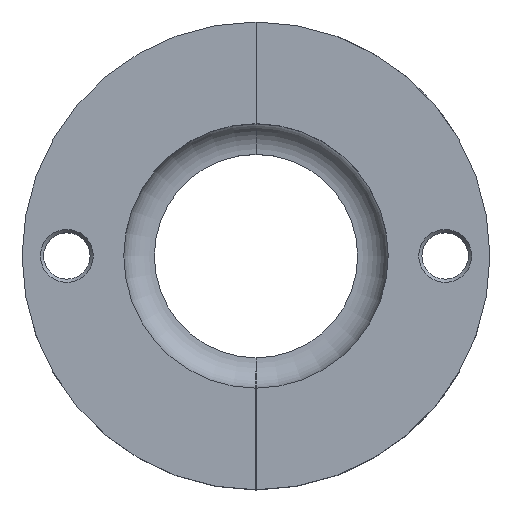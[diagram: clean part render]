
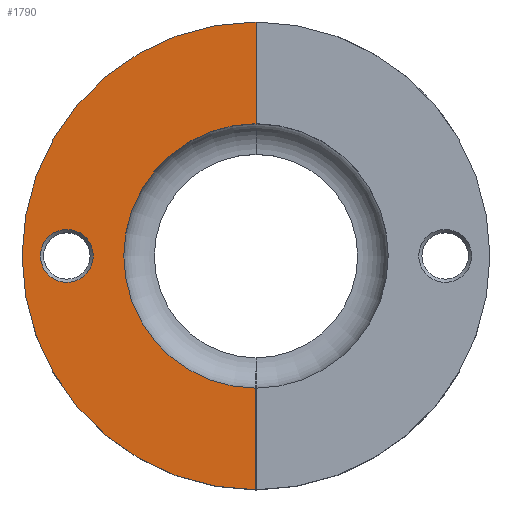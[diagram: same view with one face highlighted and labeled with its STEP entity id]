
A CAD part, top view. The second image highlights one B-rep face of the part: STEP entity #1790.
In plain terms, the highlighted planar face has unit normal (0, 0, 1).
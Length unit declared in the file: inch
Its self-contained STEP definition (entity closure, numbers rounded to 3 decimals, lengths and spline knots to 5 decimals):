
#43=FACE_BOUND('',#289,.T.);
#65=PLANE('',#1967);
#179=FACE_OUTER_BOUND('',#288,.T.);
#288=EDGE_LOOP('',(#1512,#1513,#1514,#1515));
#289=EDGE_LOOP('',(#1516));
#347=CIRCLE('',#1943,0.325);
#362=CIRCLE('',#1968,1.625);
#363=CIRCLE('',#1969,2.875);
#551=LINE('',#6838,#656);
#554=LINE('',#6854,#659);
#656=VECTOR('',#2309,0.3937);
#659=VECTOR('',#2328,0.3937);
#800=VERTEX_POINT('',#6788);
#818=VERTEX_POINT('',#6835);
#819=VERTEX_POINT('',#6837);
#823=VERTEX_POINT('',#6851);
#824=VERTEX_POINT('',#6853);
#1033=EDGE_CURVE('',#800,#800,#347,.T.);
#1056=EDGE_CURVE('',#818,#819,#551,.T.);
#1063=EDGE_CURVE('',#818,#823,#362,.T.);
#1064=EDGE_CURVE('',#824,#823,#554,.T.);
#1065=EDGE_CURVE('',#824,#819,#363,.T.);
#1512=ORIENTED_EDGE('',*,*,#1056,.F.);
#1513=ORIENTED_EDGE('',*,*,#1063,.T.);
#1514=ORIENTED_EDGE('',*,*,#1064,.F.);
#1515=ORIENTED_EDGE('',*,*,#1065,.T.);
#1516=ORIENTED_EDGE('',*,*,#1033,.T.);
#1790=ADVANCED_FACE('',(#179,#43),#65,.T.);
#1943=AXIS2_PLACEMENT_3D('',#6789,#2261,#2262);
#1967=AXIS2_PLACEMENT_3D('',#6850,#2324,#2325);
#1968=AXIS2_PLACEMENT_3D('',#6852,#2326,#2327);
#1969=AXIS2_PLACEMENT_3D('',#6855,#2329,#2330);
#2261=DIRECTION('center_axis',(0.,0.,-1.));
#2262=DIRECTION('ref_axis',(1.,0.,0.));
#2309=DIRECTION('',(0.,-1.,0.));
#2324=DIRECTION('center_axis',(0.,0.,1.));
#2325=DIRECTION('ref_axis',(1.,0.,0.));
#2326=DIRECTION('center_axis',(0.,0.,-1.));
#2327=DIRECTION('ref_axis',(-1.,0.,0.));
#2328=DIRECTION('',(0.,-1.,0.));
#2329=DIRECTION('center_axis',(0.,0.,1.));
#2330=DIRECTION('ref_axis',(1.,0.,0.));
#6788=CARTESIAN_POINT('',(-2.65,0.,1.8125));
#6789=CARTESIAN_POINT('Origin',(-2.325,0.,1.8125));
#6835=CARTESIAN_POINT('',(0.,-1.625,1.8125));
#6837=CARTESIAN_POINT('',(0.,-2.875,1.8125));
#6838=CARTESIAN_POINT('',(0.,0.,1.8125));
#6850=CARTESIAN_POINT('Origin',(0.,0.,1.8125));
#6851=CARTESIAN_POINT('',(0.,1.625,1.8125));
#6852=CARTESIAN_POINT('Origin',(0.,0.,1.8125));
#6853=CARTESIAN_POINT('',(0.,2.875,1.8125));
#6854=CARTESIAN_POINT('',(0.,0.,1.8125));
#6855=CARTESIAN_POINT('Origin',(0.,0.,1.8125));
